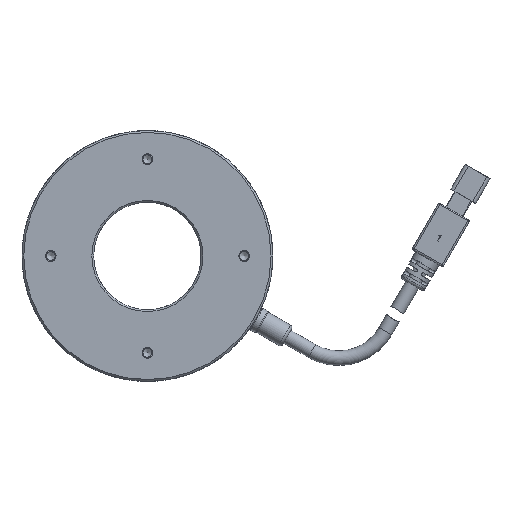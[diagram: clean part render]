
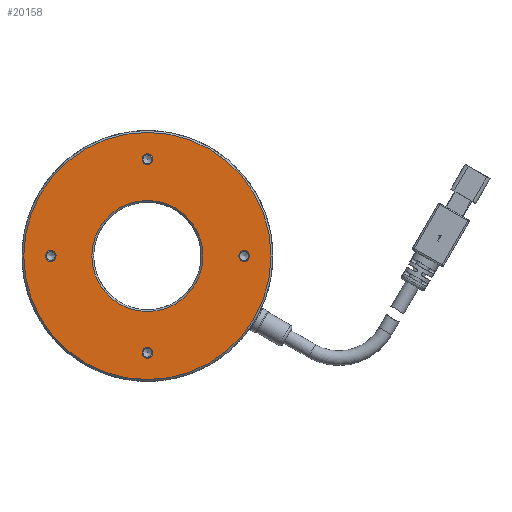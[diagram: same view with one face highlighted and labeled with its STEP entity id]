
A CAD part, front view. The second image highlights one B-rep face of the part: STEP entity #20158.
In plain terms, the highlighted planar face has unit normal (0, -1, 0).
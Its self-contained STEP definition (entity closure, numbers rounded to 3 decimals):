
#1262 = PLANE ( 'NONE',  #9503 ) ;
#1345 = CARTESIAN_POINT ( 'NONE',  ( 0., 37.181, 0. ) ) ;
#1355 = CARTESIAN_POINT ( 'NONE',  ( 35., 37.181, 0. ) ) ;
#1740 = EDGE_LOOP ( 'NONE', ( #24696 ) ) ;
#1897 = EDGE_CURVE ( 'NONE', #23303, #23303, #19821, .T. ) ;
#2524 = EDGE_LOOP ( 'NONE', ( #13477 ) ) ;
#2550 = VERTEX_POINT ( 'NONE', #22336 ) ;
#2683 = CARTESIAN_POINT ( 'NONE',  ( 0., 37.181, 34.5 ) ) ;
#2960 = AXIS2_PLACEMENT_3D ( 'NONE', #23979, #15823, #11924 ) ;
#3387 = CARTESIAN_POINT ( 'NONE',  ( 0., 37.181, 25.5 ) ) ;
#3504 = VERTEX_POINT ( 'NONE', #10742 ) ;
#3507 = FACE_OUTER_BOUND ( 'NONE', #15223, .T. ) ;
#3816 = EDGE_LOOP ( 'NONE', ( #24575 ) ) ;
#4128 = FACE_BOUND ( 'NONE', #2524, .T. ) ;
#5023 = AXIS2_PLACEMENT_3D ( 'NONE', #6343, #18472, #14322 ) ;
#5090 = EDGE_CURVE ( 'NONE', #2550, #2550, #13626, .T. ) ;
#5427 = DIRECTION ( 'NONE',  ( 0., 0., 1. ) ) ;
#5875 = DIRECTION ( 'NONE',  ( 0., -1., 0. ) ) ;
#5923 = CARTESIAN_POINT ( 'NONE',  ( 0., 37.181, 27. ) ) ;
#6281 = VERTEX_POINT ( 'NONE', #3387 ) ;
#6343 = CARTESIAN_POINT ( 'NONE',  ( -27., 37.181, 0. ) ) ;
#6368 = DIRECTION ( 'NONE',  ( 0., 0., -1. ) ) ;
#8761 = AXIS2_PLACEMENT_3D ( 'NONE', #25835, #5875, #16016 ) ;
#9262 = DIRECTION ( 'NONE',  ( 0., 1., 0. ) ) ;
#9336 = DIRECTION ( 'NONE',  ( 0., 1., 0. ) ) ;
#9503 = AXIS2_PLACEMENT_3D ( 'NONE', #1355, #9262, #11501 ) ;
#9749 = FACE_BOUND ( 'NONE', #16287, .T. ) ;
#9928 = EDGE_LOOP ( 'NONE', ( #21591 ) ) ;
#10242 = DIRECTION ( 'NONE',  ( 0., -1., 0. ) ) ;
#10742 = CARTESIAN_POINT ( 'NONE',  ( 0., 37.181, -28.5 ) ) ;
#10997 = VERTEX_POINT ( 'NONE', #2683 ) ;
#11501 = DIRECTION ( 'NONE',  ( 0., 0., 1. ) ) ;
#11924 = DIRECTION ( 'NONE',  ( 0., 0., -1. ) ) ;
#12255 = FACE_BOUND ( 'NONE', #9928, .T. ) ;
#12581 = CARTESIAN_POINT ( 'NONE',  ( -27., 37.181, -1.5 ) ) ;
#12988 = CIRCLE ( 'NONE', #18986, 1.5 ) ;
#13477 = ORIENTED_EDGE ( 'NONE', *, *, #15907, .F. ) ;
#13626 = CIRCLE ( 'NONE', #2960, 1.5 ) ;
#14090 = DIRECTION ( 'NONE',  ( 0., 0., -1. ) ) ;
#14322 = DIRECTION ( 'NONE',  ( 0., 0., -1. ) ) ;
#14442 = AXIS2_PLACEMENT_3D ( 'NONE', #1345, #9336, #5427 ) ;
#14666 = AXIS2_PLACEMENT_3D ( 'NONE', #16313, #10242, #6368 ) ;
#15223 = EDGE_LOOP ( 'NONE', ( #22819 ) ) ;
#15807 = CIRCLE ( 'NONE', #8761, 34.5 ) ;
#15823 = DIRECTION ( 'NONE',  ( 0., -1., 0. ) ) ;
#15886 = DIRECTION ( 'NONE',  ( 0., -1., 0. ) ) ;
#15907 = EDGE_CURVE ( 'NONE', #25488, #25488, #20782, .T. ) ;
#16016 = DIRECTION ( 'NONE',  ( 0., 0., 1. ) ) ;
#16091 = CIRCLE ( 'NONE', #14666, 1.5 ) ;
#16287 = EDGE_LOOP ( 'NONE', ( #25298 ) ) ;
#16313 = CARTESIAN_POINT ( 'NONE',  ( 0., 37.181, -27. ) ) ;
#17632 = FACE_BOUND ( 'NONE', #1740, .T. ) ;
#18320 = EDGE_CURVE ( 'NONE', #10997, #10997, #15807, .T. ) ;
#18472 = DIRECTION ( 'NONE',  ( 0., -1., 0. ) ) ;
#18986 = AXIS2_PLACEMENT_3D ( 'NONE', #5923, #15886, #14090 ) ;
#19373 = EDGE_CURVE ( 'NONE', #3504, #3504, #16091, .T. ) ;
#19821 = CIRCLE ( 'NONE', #14442, 15.5 ) ;
#20158 = ADVANCED_FACE ( 'NONE', ( #3507, #9749, #17632, #12255, #4128, #23595 ), #1262, .F. ) ;
#20782 = CIRCLE ( 'NONE', #5023, 1.5 ) ;
#21591 = ORIENTED_EDGE ( 'NONE', *, *, #24652, .F. ) ;
#22336 = CARTESIAN_POINT ( 'NONE',  ( 27., 37.181, -1.5 ) ) ;
#22819 = ORIENTED_EDGE ( 'NONE', *, *, #18320, .T. ) ;
#23303 = VERTEX_POINT ( 'NONE', #24363 ) ;
#23595 = FACE_BOUND ( 'NONE', #3816, .T. ) ;
#23979 = CARTESIAN_POINT ( 'NONE',  ( 27., 37.181, 0. ) ) ;
#24363 = CARTESIAN_POINT ( 'NONE',  ( 0., 37.181, 15.5 ) ) ;
#24575 = ORIENTED_EDGE ( 'NONE', *, *, #19373, .F. ) ;
#24652 = EDGE_CURVE ( 'NONE', #6281, #6281, #12988, .T. ) ;
#24696 = ORIENTED_EDGE ( 'NONE', *, *, #5090, .F. ) ;
#25298 = ORIENTED_EDGE ( 'NONE', *, *, #1897, .T. ) ;
#25488 = VERTEX_POINT ( 'NONE', #12581 ) ;
#25835 = CARTESIAN_POINT ( 'NONE',  ( 0., 37.181, 0. ) ) ;
